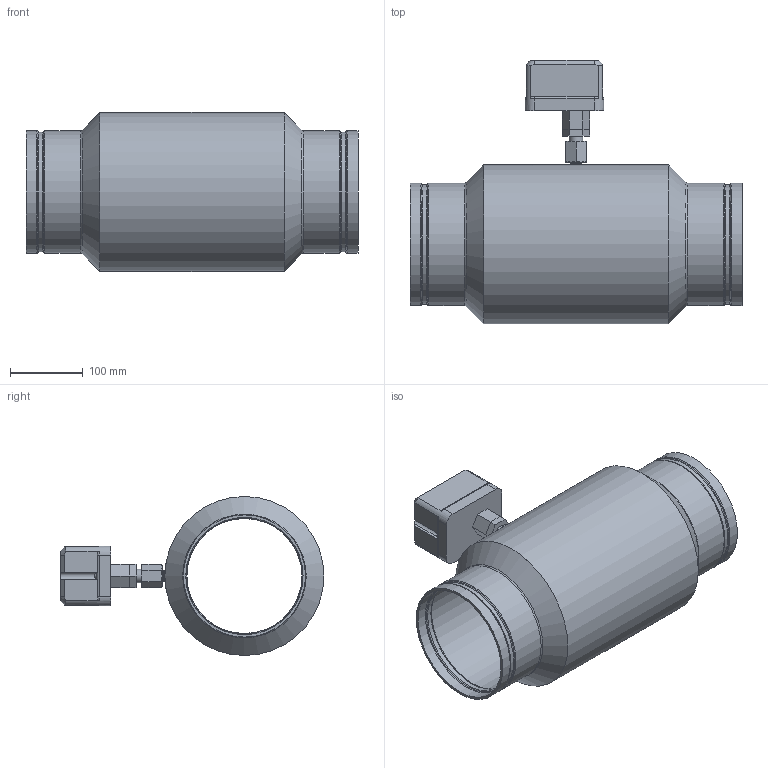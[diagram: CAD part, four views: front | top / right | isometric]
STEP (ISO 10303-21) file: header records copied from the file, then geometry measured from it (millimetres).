
FILE_DESCRIPTION(/* description */ (''),/* implementation_level */ '2;1');
FILE_NAME(/* name */ 'C:\Users\myoung\Box\ECS CAD Library\ECS Products\ILD-X Inline Detector\Export\ILD-6B10.stp',/* time_stamp */ '2020-05-06T11:17:04-05:00',/* author */ ('myoung'),/* organization */ (''),/* preprocessor_version */ 'ST-DEVELOPER v18',/* originating_system */ 'Autodesk Inventor 2020',/* authorisation */ '');
FILE_SCHEMA (('AUTOMOTIVE_DESIGN { 1 0 10303 214 3 1 1 }'));
Length unit declared in the file: inch
Products named in the file (1): ILD-6B10
Bounding box: 457.2 x 363.45 x 219.07 mm (x, y, z)
Volume: 3778207 mm3; surface area: 878697.3 mm2
Topology: 3 solids, 3 shells, 176 faces, 471 edges, 312 vertices
Faces by surface type: plane 64, cone 44, cylinder 34, torus 22, bspline 12
Full cylindrical faces by diameter (mm): 1.524 x2, 7.112 x1, 7.62 x2, 10.719 x1, 12.359 x1, 19.05 x1, 158.267 x2, 161.468 x3, 163.5 x1, 165.075 x2, 168.275 x6, 193.675 x1, 219.075 x1
Entity records: 16292 total; most frequent: CARTESIAN_POINT 11710, ORIENTED_EDGE 942, DIRECTION 887, EDGE_CURVE 471, AXIS2_PLACEMENT_3D 357, VERTEX_POINT 312, EDGE_LOOP 193, CIRCLE 187
